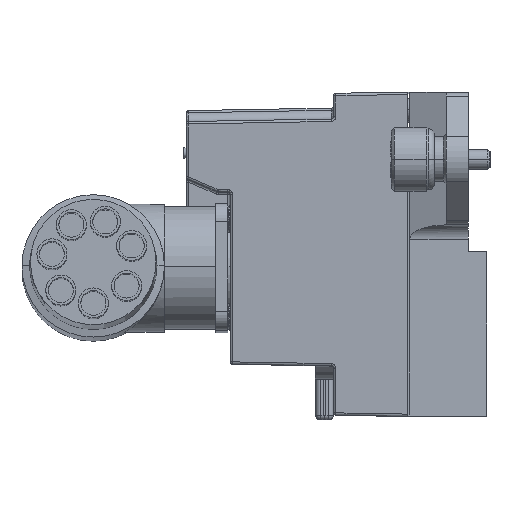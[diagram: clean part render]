
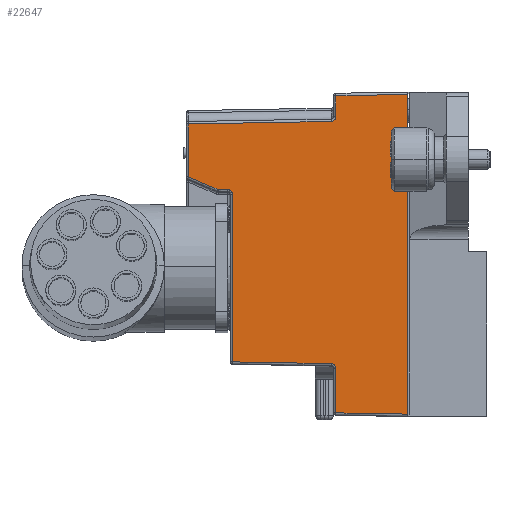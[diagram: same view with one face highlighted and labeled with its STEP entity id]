
A CAD part, left-side view. The second image highlights one B-rep face of the part: STEP entity #22647.
In plain terms, the highlighted planar face has unit normal (-1, 0.018, 0).
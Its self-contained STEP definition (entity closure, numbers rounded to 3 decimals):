
#12898=CARTESIAN_POINT('',(-108.38,13.509,
45.137));
#12899=CARTESIAN_POINT('',(-108.38,13.509,
45.269));
#12900=CARTESIAN_POINT('',(-108.379,13.557,
45.515));
#12901=CARTESIAN_POINT('',(-108.376,13.773,
45.854));
#12902=CARTESIAN_POINT('',(-108.37,14.104,
46.078));
#12903=CARTESIAN_POINT('',(-108.365,14.354,
46.134));
#12904=CARTESIAN_POINT('',(-108.363,14.491,
46.137));
#12906=DIRECTION('',(-0.017,-1.,-0.017));
#12907=VECTOR('',#12906,1.997);
#12908=CARTESIAN_POINT('',(-108.328,16.487,
46.172));
#12909=LINE('',#12908,#12907);
#12910=DIRECTION('',(-0.016,-0.92,-0.391));
#12911=VECTOR('',#12910,6.543);
#12912=CARTESIAN_POINT('',(-108.223,22.509,
48.731));
#12913=LINE('',#12912,#12911);
#12914=DIRECTION('',(0.,0.,1.));
#12915=VECTOR('',#12914,10.772);
#12916=CARTESIAN_POINT('',(-108.223,22.509,
48.731));
#12917=LINE('',#12916,#12915);
#12918=DIRECTION('',(0.017,1.,-0.017));
#12919=VECTOR('',#12918,29.026);
#12920=CARTESIAN_POINT('',(-108.73,-6.509,
60.01));
#12921=LINE('',#12920,#12919);
#12922=CARTESIAN_POINT('',(-108.747,-7.491,
61.01));
#12923=CARTESIAN_POINT('',(-108.747,-7.491,
60.874));
#12924=CARTESIAN_POINT('',(-108.746,-7.44,
60.625));
#12925=CARTESIAN_POINT('',(-108.742,-7.224,
60.29));
#12926=CARTESIAN_POINT('',(-108.736,-6.89,
60.066));
#12927=CARTESIAN_POINT('',(-108.732,-6.643,
60.012));
#12928=CARTESIAN_POINT('',(-108.73,-6.509,
60.01));
#12930=DIRECTION('',(0.,0.,-1.));
#12931=VECTOR('',#12930,4.237);
#12932=CARTESIAN_POINT('',(-108.747,-7.491,
65.247));
#12933=LINE('',#12932,#12931);
#12934=DIRECTION('',(-0.017,-1.,0.017));
#12935=VECTOR('',#12934,14.513);
#12936=CARTESIAN_POINT('',(-108.747,-7.491,
65.247));
#12937=LINE('',#12936,#12935);
#12938=DIRECTION('',(0.017,1.,0.017));
#12939=VECTOR('',#12938,14.513);
#12940=CARTESIAN_POINT('',(-109.,-22.,0.5));
#12941=LINE('',#12940,#12939);
#12942=DIRECTION('',(0.,0.,-1.));
#12943=VECTOR('',#12942,9.017);
#12944=CARTESIAN_POINT('',(-108.747,-7.491,
9.77));
#12945=LINE('',#12944,#12943);
#12946=CARTESIAN_POINT('',(-108.73,-6.509,
10.77));
#12947=CARTESIAN_POINT('',(-108.731,-6.585,
10.769));
#12948=CARTESIAN_POINT('',(-108.733,-6.726,
10.75));
#12949=CARTESIAN_POINT('',(-108.737,-6.909,
10.685));
#12950=CARTESIAN_POINT('',(-108.739,-7.06,
10.598));
#12951=CARTESIAN_POINT('',(-108.741,-7.179,
10.501));
#12952=CARTESIAN_POINT('',(-108.743,-7.273,
10.399));
#12953=CARTESIAN_POINT('',(-108.744,-7.347,
10.292));
#12954=CARTESIAN_POINT('',(-108.745,-7.406,
10.181));
#12955=CARTESIAN_POINT('',(-108.746,-7.451,
10.06));
#12956=CARTESIAN_POINT('',(-108.747,-7.483,
9.926));
#12957=CARTESIAN_POINT('',(-108.747,-7.491,
9.824));
#12958=CARTESIAN_POINT('',(-108.747,-7.491,
9.77));
#12960=DIRECTION('',(-0.017,-1.,-0.017));
#12961=VECTOR('',#12960,20.024);
#12962=CARTESIAN_POINT('',(-108.38,13.509,
11.12));
#12963=LINE('',#12962,#12961);
#12964=DIRECTION('',(0.,0.,1.));
#12965=VECTOR('',#12964,34.017);
#12966=CARTESIAN_POINT('',(-108.38,13.509,
11.12));
#12967=LINE('',#12966,#12965);
#13856=CARTESIAN_POINT('',(-109.,-22.,0.5));
#13862=DIRECTION('',(0.,0.,1.));
#13863=VECTOR('',#13862,65.);
#13864=CARTESIAN_POINT('',(-109.,-22.,0.5));
#13865=LINE('',#13864,#13863);
#13870=CARTESIAN_POINT('',(-109.,-22.,65.5));
#17513=CARTESIAN_POINT('',(-108.38,13.509,
11.12));
#17514=CARTESIAN_POINT('',(-108.38,13.509,
45.137));
#17515=VERTEX_POINT('',#17513);
#17516=VERTEX_POINT('',#17514);
#17541=CARTESIAN_POINT('',(-108.223,22.509,
48.731));
#17542=CARTESIAN_POINT('',(-108.223,22.509,
59.503));
#17543=VERTEX_POINT('',#17541);
#17544=VERTEX_POINT('',#17542);
#17593=CARTESIAN_POINT('',(-108.73,-6.509,
60.01));
#17594=VERTEX_POINT('',#17593);
#17629=CARTESIAN_POINT('',(-108.328,16.487,
46.172));
#17630=CARTESIAN_POINT('',(-108.363,14.491,
46.137));
#17631=VERTEX_POINT('',#17629);
#17632=VERTEX_POINT('',#17630);
#17634=VERTEX_POINT('',#13870);
#17637=CARTESIAN_POINT('',(-108.747,-7.491,
65.247));
#17638=VERTEX_POINT('',#17637);
#18122=VERTEX_POINT('',#12922);
#18180=VERTEX_POINT('',#13856);
#18182=VERTEX_POINT('',#12946);
#18183=VERTEX_POINT('',#12958);
#18190=CARTESIAN_POINT('',(-108.747,-7.491,
0.753));
#18191=VERTEX_POINT('',#18190);
#22615=CARTESIAN_POINT('',(-109.,-22.,-2.938));
#22616=DIRECTION('',(-1.,0.017,0.));
#22617=DIRECTION('',(0.,0.,-1.));
#22618=AXIS2_PLACEMENT_3D('',#22615,#22616,#22617);
#22619=PLANE('',#22618);
#22621=ORIENTED_EDGE('',*,*,#22620,.T.);
#22623=ORIENTED_EDGE('',*,*,#22622,.F.);
#22624=ORIENTED_EDGE('',*,*,#22596,.F.);
#22625=ORIENTED_EDGE('',*,*,#21782,.T.);
#22626=ORIENTED_EDGE('',*,*,#21812,.F.);
#22628=ORIENTED_EDGE('',*,*,#22627,.F.);
#22630=ORIENTED_EDGE('',*,*,#22629,.F.);
#22632=ORIENTED_EDGE('',*,*,#22631,.T.);
#22634=ORIENTED_EDGE('',*,*,#22633,.F.);
#22636=ORIENTED_EDGE('',*,*,#22635,.T.);
#22638=ORIENTED_EDGE('',*,*,#22637,.F.);
#22640=ORIENTED_EDGE('',*,*,#22639,.F.);
#22642=ORIENTED_EDGE('',*,*,#22641,.F.);
#22644=ORIENTED_EDGE('',*,*,#22643,.T.);
#22645=EDGE_LOOP('',(#22621,#22623,#22624,#22625,#22626,#22628,#22630,#22632,
#22634,#22636,#22638,#22640,#22642,#22644));
#22646=FACE_OUTER_BOUND('',#22645,.F.);
#22647=ADVANCED_FACE('',(#22646),#22619,.T.);
#12905=B_SPLINE_CURVE_WITH_KNOTS('',3,(#12898,#12899,#12900,#12901,#12902,
#12903,#12904),.UNSPECIFIED.,.F.,.F.,(4,1,1,1,4),(0.,0.25,0.5,0.75,
1.),.UNSPECIFIED.);
#12929=B_SPLINE_CURVE_WITH_KNOTS('',3,(#12922,#12923,#12924,#12925,#12926,
#12927,#12928),.UNSPECIFIED.,.F.,.F.,(4,1,1,1,4),(0.,0.25,0.5,0.75,
1.),.UNSPECIFIED.);
#12959=B_SPLINE_CURVE_WITH_KNOTS('',3,(#12946,#12947,#12948,#12949,#12950,
#12951,#12952,#12953,#12954,#12955,#12956,#12957,#12958),.UNSPECIFIED.,.F.,.F.,(
4,1,1,1,1,1,1,1,1,1,4),(0.,0.1,0.2,0.3,0.4,0.5,0.6,0.7,0.8,
0.9,1.),.UNSPECIFIED.);
#21782=EDGE_CURVE('',#17543,#17544,#12917,.T.);
#21812=EDGE_CURVE('',#17594,#17544,#12921,.T.);
#22596=EDGE_CURVE('',#17543,#17631,#12913,.T.);
#22620=EDGE_CURVE('',#17516,#17632,#12905,.T.);
#22622=EDGE_CURVE('',#17631,#17632,#12909,.T.);
#22627=EDGE_CURVE('',#18122,#17594,#12929,.T.);
#22629=EDGE_CURVE('',#17638,#18122,#12933,.T.);
#22631=EDGE_CURVE('',#17638,#17634,#12937,.T.);
#22633=EDGE_CURVE('',#18180,#17634,#13865,.T.);
#22635=EDGE_CURVE('',#18180,#18191,#12941,.T.);
#22637=EDGE_CURVE('',#18183,#18191,#12945,.T.);
#22639=EDGE_CURVE('',#18182,#18183,#12959,.T.);
#22641=EDGE_CURVE('',#17515,#18182,#12963,.T.);
#22643=EDGE_CURVE('',#17515,#17516,#12967,.T.);
